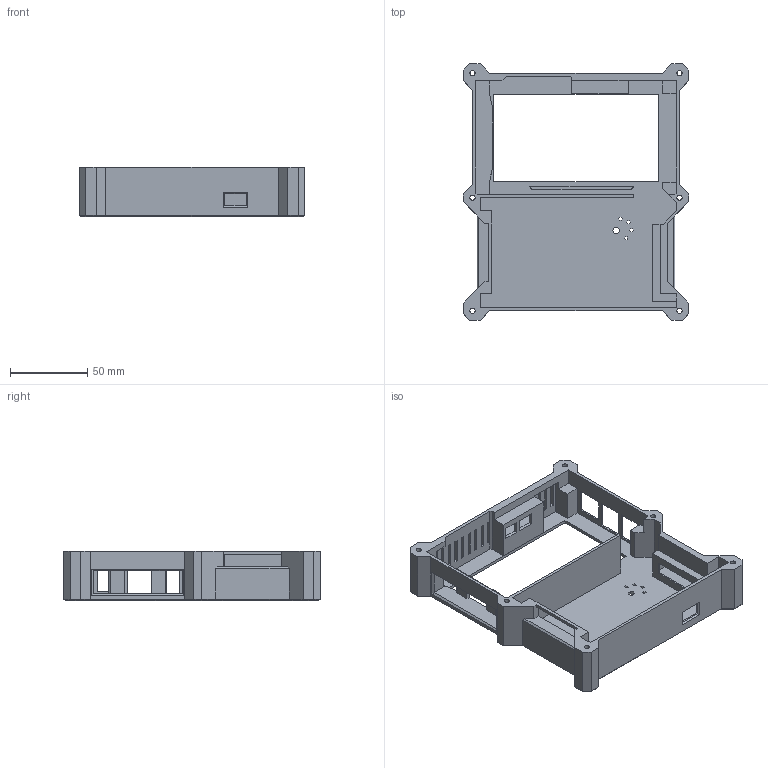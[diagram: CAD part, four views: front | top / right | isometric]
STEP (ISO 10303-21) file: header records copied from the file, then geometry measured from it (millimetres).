
FILE_DESCRIPTION(/* description */ ('Unknown'),/* implementation_level */ '2;1');
FILE_NAME(/* name */ '2026-04-20_cyberdeck_case_with_open_backplate',/* time_stamp */ '2026-04-21T19:58:40+02:00',/* author */ ('Unknown'),/* organization */ ('Unknown'),/* preprocessor_version */ 'ST-DEVELOPER v16.7',/* originating_system */ 'DEX',/* authorisation */ $);
FILE_SCHEMA (('AUTOMOTIVE_DESIGN {1 0 10303 214 3 1 1}'));
Length unit declared in the file: millimetre
Products named in the file (1): cyberdeck_case
Bounding box: 145.6 x 165.4 x 32 mm (x, y, z)
Volume: 108739 mm3; surface area: 80327.4 mm2
Topology: 1 solids, 1 shells, 352 faces, 981 edges, 632 vertices
Faces by surface type: plane 340, cylinder 12
Full cylindrical faces by diameter (mm): 3.3 x6
Entity records: 11071 total; most frequent: CARTESIAN_POINT 1948, ORIENTED_EDGE 1938, DIRECTION 1699, EDGE_CURVE 969, LINE 945, VECTOR 945, VERTEX_POINT 626, EDGE_LOOP 431
